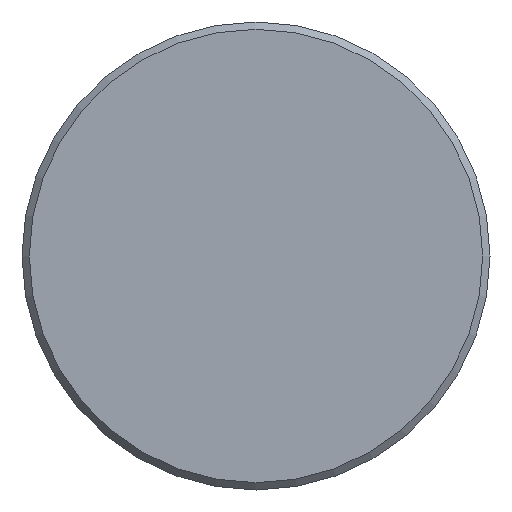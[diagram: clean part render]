
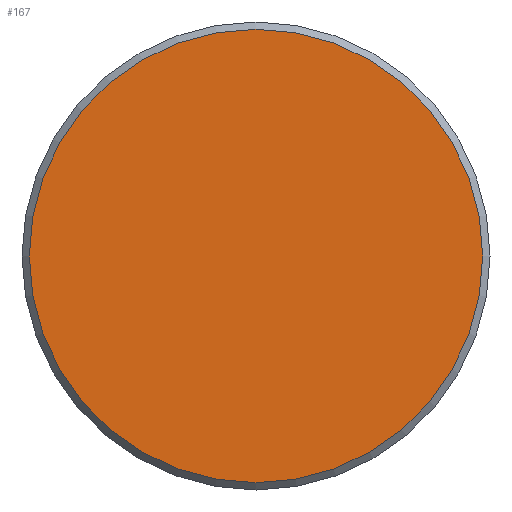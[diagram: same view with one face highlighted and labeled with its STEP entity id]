
A CAD part, front view. The second image highlights one B-rep face of the part: STEP entity #167.
In plain terms, the highlighted planar face has unit normal (0, -1, 0).
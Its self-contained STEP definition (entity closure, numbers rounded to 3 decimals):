
#167 = ADVANCED_FACE( '', ( #331 ), #332, .F. );
#331 = FACE_OUTER_BOUND( '', #513, .T. );
#332 = PLANE( '', #514 );
#513 = EDGE_LOOP( '', ( #749 ) );
#514 = AXIS2_PLACEMENT_3D( '', #750, #751, #752 );
#749 = ORIENTED_EDGE( '', *, *, #1070, .T. );
#750 = CARTESIAN_POINT( '', ( 15.5, 0., 0. ) );
#751 = DIRECTION( '', ( 0., 1., 0. ) );
#752 = DIRECTION( '', ( 0., 0., 1. ) );
#1070 = EDGE_CURVE( '', #1249, #1249, #1250, .T. );
#1249 = VERTEX_POINT( '', #1586 );
#1250 = CIRCLE( '', #1587, 15.5 );
#1586 = CARTESIAN_POINT( '', ( 0., 0., -15.5 ) );
#1587 = AXIS2_PLACEMENT_3D( '', #1876, #1877, #1878 );
#1876 = CARTESIAN_POINT( '', ( 0., 0., 0. ) );
#1877 = DIRECTION( '', ( 0., -1., 0. ) );
#1878 = DIRECTION( '', ( 0., 0., -1. ) );
